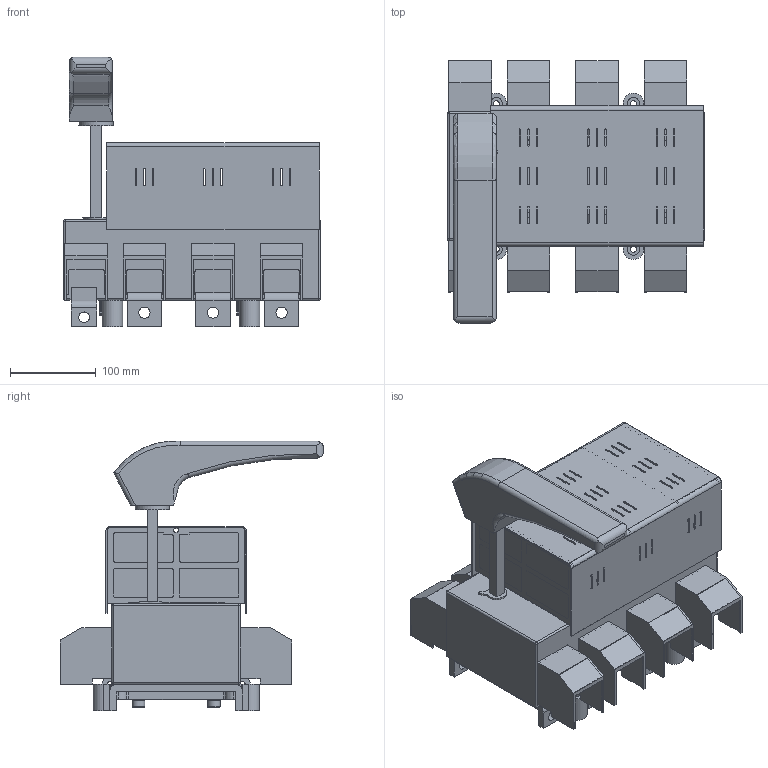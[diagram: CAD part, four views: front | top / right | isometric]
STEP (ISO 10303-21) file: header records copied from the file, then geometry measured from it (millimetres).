
FILE_DESCRIPTION(/* description */ (''),/* implementation_level */ '2;1');
FILE_NAME(/* name */ 'RAB 3 P3 N C-R z oslona zaciskow.stp',/* time_stamp */ '2021-08-19T15:03:12+02:00',/* author */ (''),/* organization */ (''),/* preprocessor_version */ 'ST-DEVELOPER v18.1',/* originating_system */ 'SIEMENS PLM Software NX 1965',/* authorisation */ '');
FILE_SCHEMA (('AUTOMOTIVE_DESIGN { 1 0 10303 214 3 1 1 1 }'));
Length unit declared in the file: millimetre
Products named in the file (1): RAB 3 P3 N C-R z oslona zaciskow
Bounding box: 300 x 307 x 314.5 mm (x, y, z)
Volume: 5107914.9 mm3; surface area: 854364.8 mm2
Topology: 1 solids, 13 shells, 1817 faces, 4965 edges, 3203 vertices
Faces by surface type: plane 1115, cylinder 586, bspline 52, torus 48, sphere 8, cone 8
Full cylindrical faces by diameter (mm): 3 x4, 4.8 x4, 5.2 x2, 5.6 x4, 6.5 x26, 7 x4, 10.5 x26, 12.5 x2, 13 x6, 13.5 x4, 14 x4, 15 x4, 40 x1
Entity records: 59872 total; most frequent: CARTESIAN_POINT 13643, ORIENTED_EDGE 9618, DIRECTION 9458, EDGE_CURVE 4809, LINE 3392, VECTOR 3392, VERTEX_POINT 3167, AXIS2_PLACEMENT_3D 3033
